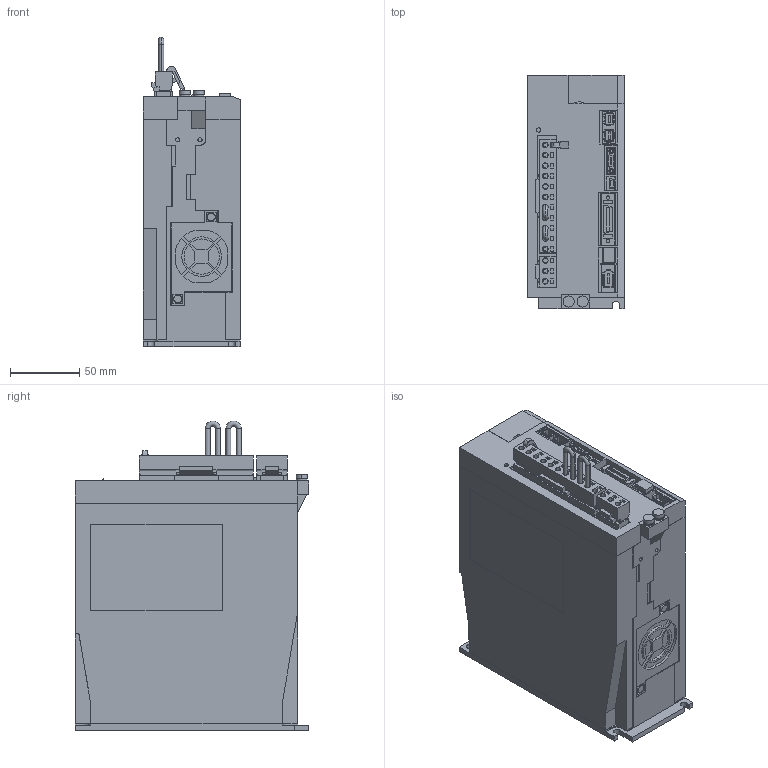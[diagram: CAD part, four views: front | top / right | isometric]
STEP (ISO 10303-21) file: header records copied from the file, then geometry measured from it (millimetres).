
FILE_DESCRIPTION (( 'STEP AP203' ), '1' );
FILE_NAME ('sgd7s_3r8a20a.STEP', '2016-08-02T00:33:28', ( '匠エンジニアリング山之内' ), ( 'TAKUMI-Engniaring' ), 'SwSTEP 2.0', 'SolidWorks 2006303', '' );
FILE_SCHEMA (( 'CONFIG_CONTROL_DESIGN' ));
Products named in the file (10): sgd7s_3r8a20a_cable; sgd7s_3r8a20a_pin; sgd7s_3r8a20a; sgd7s_3r8a20a_base; sgd7s_3r8a20a_connector; sgd7s_3r8a20a_connector_2; sgd7s_3r8a20a_connector_1; sgd7s_3r8a20a_cover; sgd7s_3r8a20a_cover2; sgd7s_3r8a20a_connector_3
Assembly tree (11 placements, depth 3):
  sgd7s_3r8a20a
    sgd7s_3r8a20a_cover2  x2
    sgd7s_3r8a20a_connector_3
    sgd7s_3r8a20a_base
    sgd7s_3r8a20a_connector_1
    sgd7s_3r8a20a_cover
    sgd7s_3r8a20a_connector
      sgd7s_3r8a20a_pin
      sgd7s_3r8a20a_cable  x2
      sgd7s_3r8a20a_connector_2
Bounding box: 70.5 x 168 x 223 mm (x, y, z)
Volume: 1988969.7 mm3; surface area: 151045.7 mm2
Topology: 10 solids, 10 shells, 1868 faces, 4867 edges, 3202 vertices
Faces by surface type: plane 1648, cylinder 211, cone 4, torus 4, sphere 1
Entity records: 56438 total; most frequent: CARTESIAN_POINT 9785, ORIENTED_EDGE 9574, DIRECTION 8904, EDGE_CURVE 4787, LINE 4366, VECTOR 4366, VERTEX_POINT 3150, AXIS2_PLACEMENT_3D 2269
